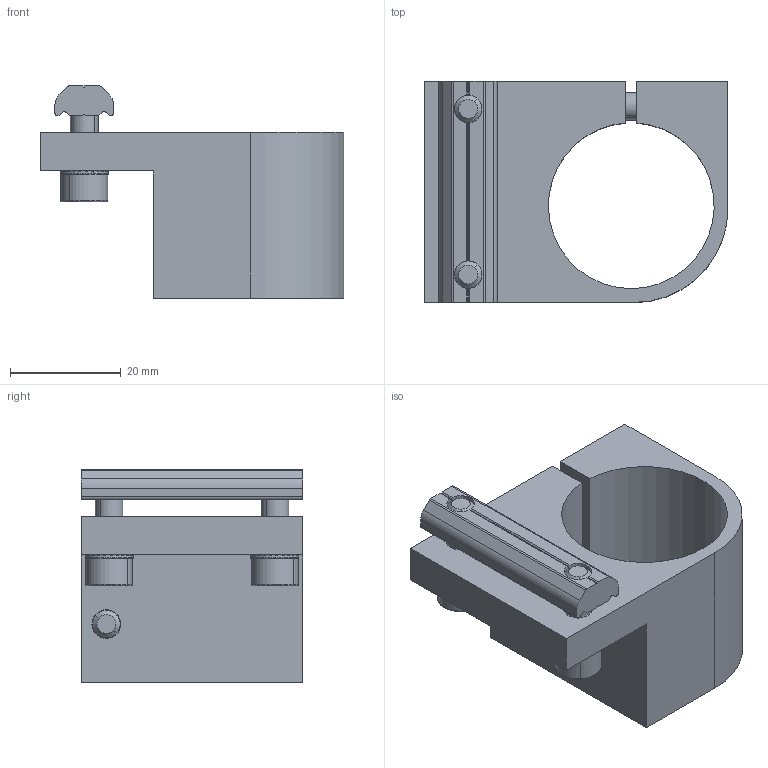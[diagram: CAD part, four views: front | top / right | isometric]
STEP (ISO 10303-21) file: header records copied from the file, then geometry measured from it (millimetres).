
FILE_DESCRIPTION (( 'STEP AP214' ), '1' );
FILE_NAME ('SMBE4-3012T.STEP', '2022-12-26T06:30:48', ( '' ), ( '' ), 'SwSTEP 2.0', 'SolidWorks 2018', '' );
FILE_SCHEMA (( 'AUTOMOTIVE_DESIGN' ));
Length unit declared in the file: millimetre
Products named in the file (1): SMBE4-3012T
Bounding box: 55 x 40 x 38.4 mm (x, y, z)
Volume: 25584.8 mm3; surface area: 14445.4 mm2
Topology: 8 solids, 8 shells, 719 faces, 2085 edges, 1378 vertices
Faces by surface type: plane 648, cylinder 59, cone 6, bspline 6
Entity records: 32301 total; most frequent: CARTESIAN_POINT 4780, ORIENTED_EDGE 4170, DIRECTION 4137, EDGE_CURVE 2085, AXIS2_PLACEMENT_3D 1382, VERTEX_POINT 1378, LINE 1373, VECTOR 1373
